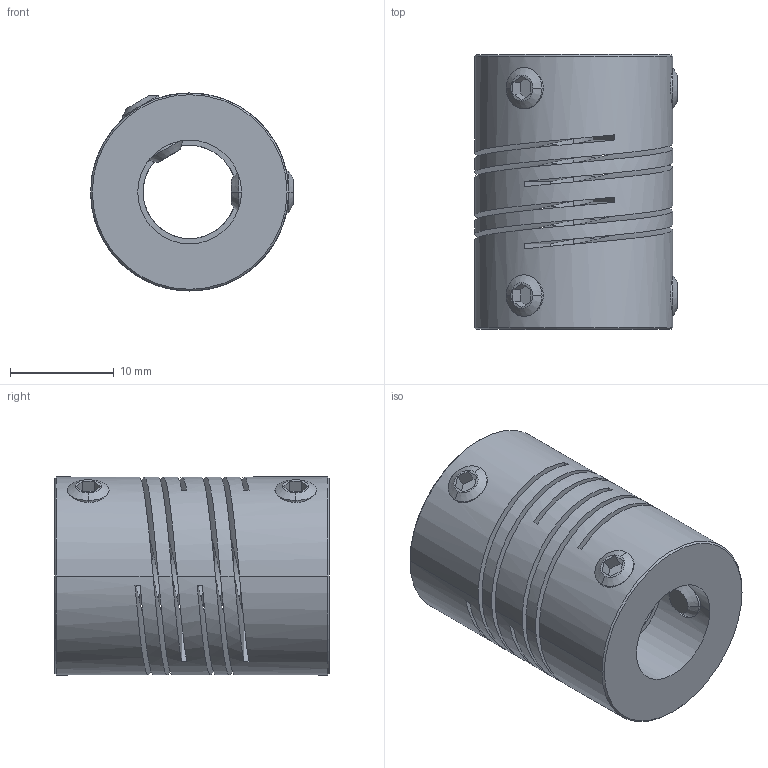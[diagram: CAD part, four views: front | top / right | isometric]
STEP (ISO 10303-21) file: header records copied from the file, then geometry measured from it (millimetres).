
FILE_DESCRIPTION((''),'2;1');
FILE_NAME('706_19_ASM','2006-12-06T',('Gary Melling'),(''),'PRO/ENGINEER BY PARAMETRIC TECHNOLOGY CORPORATION, 2006240','PRO/ENGINEER BY PARAMETRIC TECHNOLOGY CORPORATION, 2006240','');
FILE_SCHEMA(('CONFIG_CONTROL_DESIGN'));
Length unit declared in the file: millimetre
Products named in the file (3): 706_19; GS_4; 706_19_ASM
Assembly tree (5 placements, depth 2):
  706_19_ASM
    706_19
    GS_4  x4
Bounding box: 19.55 x 26.5 x 19.1 mm (x, y, z)
Volume: 5194.4 mm3; surface area: 5368.1 mm2
Topology: 5 solids, 5 shells, 116 faces, 316 edges, 200 vertices
Faces by surface type: plane 52, cylinder 32, cone 20, bspline 12
Entity records: 4409 total; most frequent: CARTESIAN_POINT 2478, ORIENTED_EDGE 440, DIRECTION 306, EDGE_CURVE 220, VERTEX_POINT 140, VECTOR 116, LINE 116, AXIS2_PLACEMENT_3D 95
